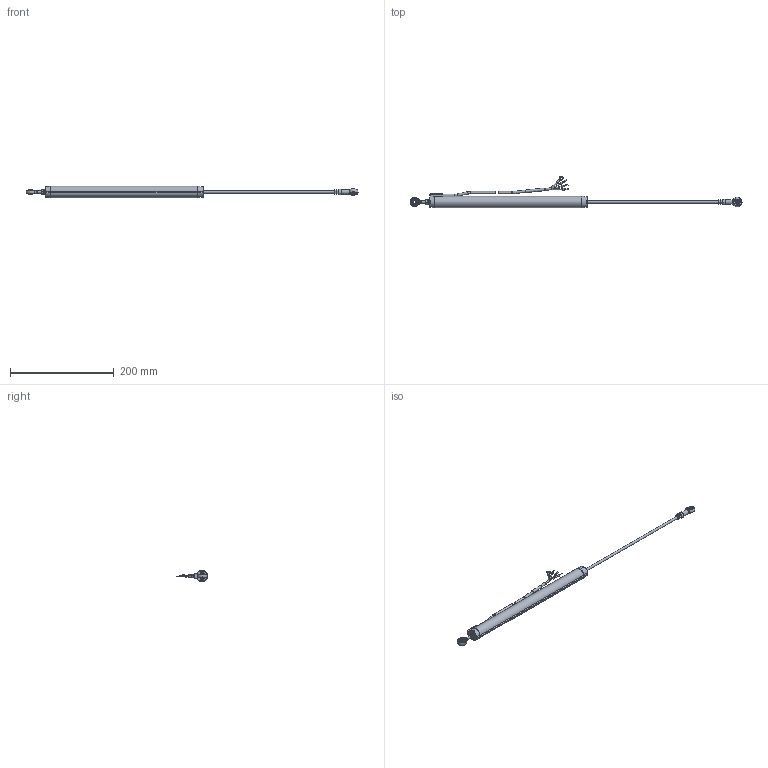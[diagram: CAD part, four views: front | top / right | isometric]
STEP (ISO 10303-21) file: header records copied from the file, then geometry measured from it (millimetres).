
FILE_DESCRIPTION(/* description */ (''),/* implementation_level */ '2;1');
FILE_NAME(/* name */ 'D:\LPPS-22 CAD Drawings\3D\LPPS-22-250\LPPS-22-250 SW.stp',/* time_stamp */ '2021-10-22T15:06:48-04:00',/* author */ ('Justin'),/* organization */ (''),/* preprocessor_version */ 'ST-DEVELOPER v18.1',/* originating_system */ 'Autodesk Inventor 2022',/* authorisation */ '');
FILE_SCHEMA (('AUTOMOTIVE_DESIGN { 1 0 10303 214 3 1 1 }'));
Products named in the file (4): LPPS-22-250 SW; LPPS-22-250 Cable_Simplify; LPPS-22-250 Housing_Simplify; LPPS-22-250 Shaft_Simplify
Assembly tree (3 placements, depth 2):
  LPPS-22-250 SW
    LPPS-22-250 Cable_Simplify
    LPPS-22-250 Housing_Simplify
    LPPS-22-250 Shaft_Simplify
Bounding box: 640.58 x 60.43 x 21.96 mm (x, y, z)
Volume: 63655.3 mm3; surface area: 60150.2 mm2
Topology: 30 solids, 30 shells, 757 faces, 2739 edges, 2048 vertices
Faces by surface type: cylinder 349, plane 202, cone 142, bspline 28, torus 22, sphere 14
Full cylindrical faces by diameter (mm): 1.27 x3, 1.48 x96, 1.575 x2, 2 x92, 2.286 x5, 3.175 x5, 3.81 x1, 3.881 x1, 4 x4, 4.134 x1, 4.191 x1, 4.342 x12, 4.572 x5, 4.826 x3, 4.851 x1, 4.953 x1, 5 x15, 5.004 x2, 5.08 x1, 5.207 x1, 5.3 x1, 6.35 x2, 9.144 x1, 10 x1, 12.675 x4, 12.7 x1, 15.875 x2, 17.78 x1
Entity records: 45085 total; most frequent: CARTESIAN_POINT 23734, ORIENTED_EDGE 5444, DIRECTION 3368, EDGE_CURVE 2722, VERTEX_POINT 2048, AXIS2_PLACEMENT_3D 1373, EDGE_LOOP 826, STYLED_ITEM 787
